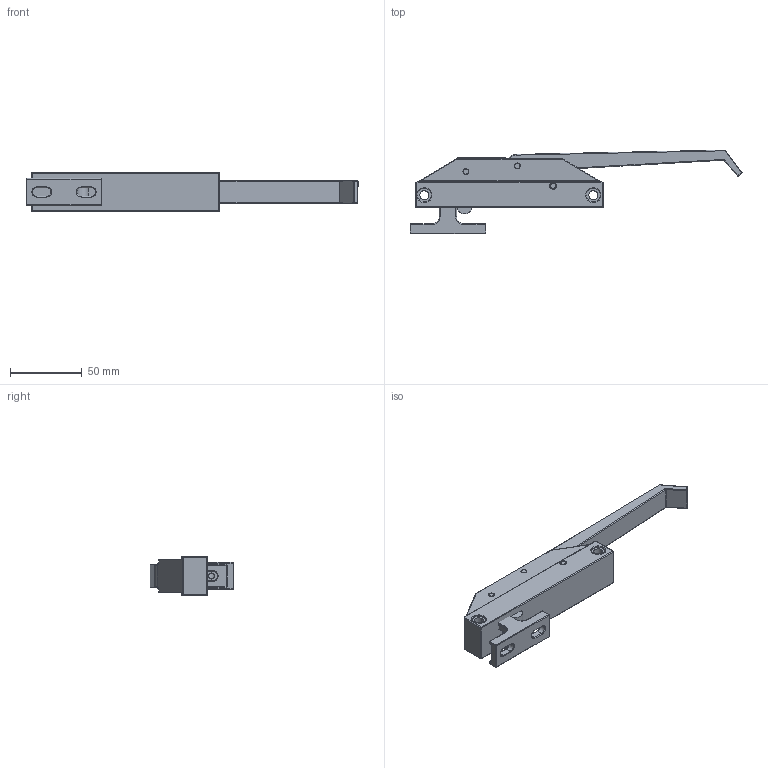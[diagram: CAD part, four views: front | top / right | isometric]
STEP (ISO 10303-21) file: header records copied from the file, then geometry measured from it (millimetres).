
FILE_DESCRIPTION (( 'STEP AP203' ), '1' );
FILE_NAME ('SK1-3-0680.STEP', '2018-11-01T02:10:30', ( 'admin' ), ( 'Microsoft' ), 'SwSTEP 2.0', 'SolidWorks 2015', '' );
FILE_SCHEMA (( 'CONFIG_CONTROL_DESIGN' ));
Length unit declared in the file: millimetre
Products named in the file (5): SK1-3-0680; SK1-3-0680 蜇璃; SK1-3-0680 蜇璃1
Assembly tree (4 placements, depth 3):
  SK1-3-0680
    SK1-3-0680
    SK1-3-0680 蜇璃
      SK1-3-0680 蜇璃
      SK1-3-0680 蜇璃1
Bounding box: 231.8 x 58.49 x 27 mm (x, y, z)
Volume: 108843.4 mm3; surface area: 36253.9 mm2
Topology: 4 solids, 4 shells, 375 faces, 850 edges, 458 vertices
Faces by surface type: cylinder 188, plane 81, torus 50, sphere 48, bspline 8
Entity records: 10704 total; most frequent: CARTESIAN_POINT 1932, DIRECTION 1932, ORIENTED_EDGE 1612, EDGE_CURVE 806, AXIS2_PLACEMENT_3D 790, VERTEX_POINT 454, CIRCLE 415, EDGE_LOOP 402
